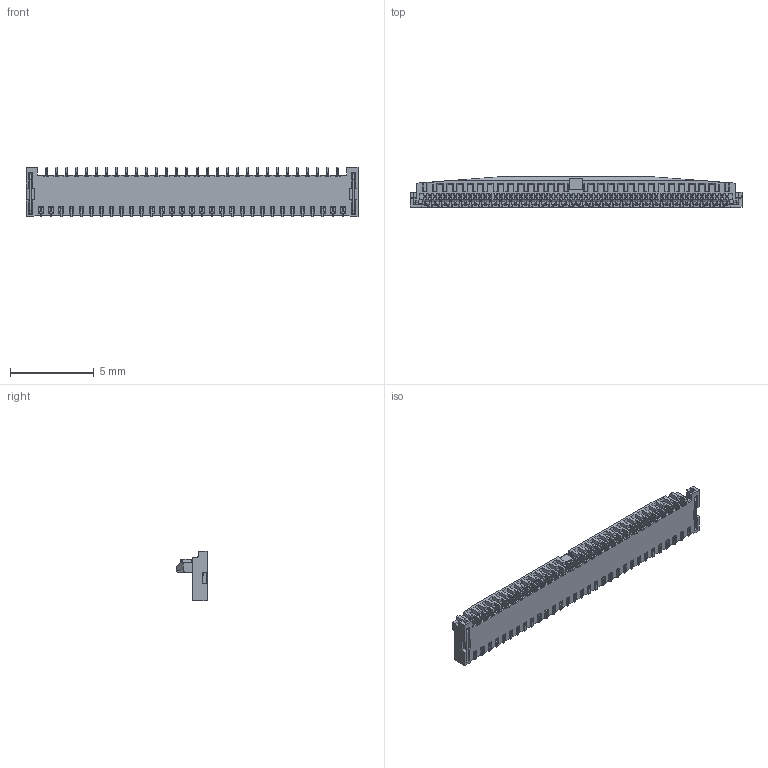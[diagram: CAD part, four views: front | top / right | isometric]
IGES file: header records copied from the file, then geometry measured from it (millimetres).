
Start section: SolidWorks IGES file using analytic representation for surfaces
Bounding box: 19.8 x 1.85 x 2.95 mm (x, y, z)
Surface area: 299.4 mm2 (no closed solid volume)
Topology: 0 solids, 0 shells, 5882 faces, 35958 edges, 35958 vertices
Faces by surface type: bspline 4916, revolution 966
